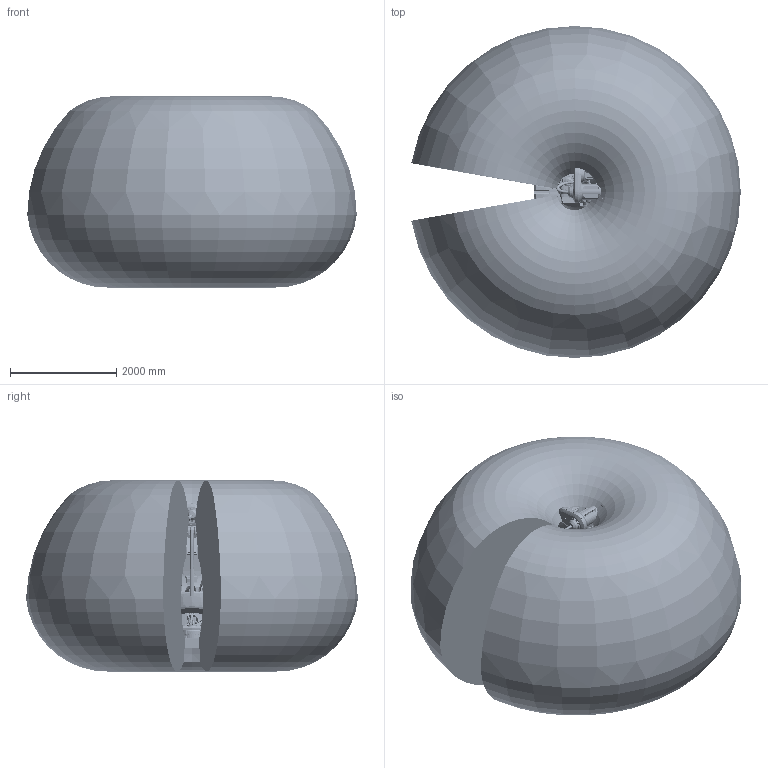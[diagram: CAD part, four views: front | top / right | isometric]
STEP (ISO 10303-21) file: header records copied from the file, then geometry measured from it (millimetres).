
FILE_DESCRIPTION (( 'STEP AP214' ), '1' );
FILE_NAME ('IRB7720-LID-SW_480kg-310_OC_01_ASM_CAD.step', '2026-01-28T12:47:14', ( '' ), ( '' ), 'SwSTEP 2.0', 'SolidWorks 2024', '' );
FILE_SCHEMA (( 'AUTOMOTIVE_DESIGN' ));
Length unit declared in the file: millimetre
Products named in the file (22): IRB77X0_All_OC_00_LINK03b_CABLE; IRB7720-LID-SW_480kg-310_OC_01_ASM_CAD; IRB7720_All_OC_00_BASE_CAD; IRB77X0_All_OC_00_LINK02m_CABLE; IRB7720-LID_All-310_OC_01_LINK04_CABLE; IRB7720_All-310_OC_00_LINK05_CAD; IRB7720_All-310_OC_00_LINK03_CAD; IRB77X0-LID-SW_All_OC_01_LINK03a_CABLE; IRB7720_All-310_OC_00_Working-space; IRB77X0_All_OC_00_ROD_CAD; IRB77X0_All_OC_00_LINK01_CABLE; IRB7720_All-310_OC_00_LINK03m_CABLE; IRB77X0_All_OC_00_CYL_CAD; IRB77X0_All_OC_00_LINK01_CAD; IRB7720_All-310_OC_00_LINK05_CABLE; IRB77X0_All_OC_00_LINK01m_CABLE; IRB7720_All_OC_00_LINKARM_CAD; IRB77X0_All_OC_00_LINK02_CAD; IRB7720_All-310_OC_00_LINK06_CABLE; IRB77X0_All_OC_00_LINK02_CABLE; IRB7720_All-310_OC_00_LINK04_CAD; IRB77X0_All_OC_00_LINKBAR_CAD
Assembly tree (21 placements, depth 2):
  IRB7720-LID-SW_480kg-310_OC_01_ASM_CAD
    IRB7720_All_OC_00_BASE_CAD
    IRB77X0_All_OC_00_LINK01_CAD
    IRB77X0_All_OC_00_LINK02_CAD
    IRB77X0_All_OC_00_CYL_CAD
    IRB77X0_All_OC_00_ROD_CAD
    IRB7720_All_OC_00_LINKARM_CAD
    IRB77X0_All_OC_00_LINKBAR_CAD
    IRB77X0_All_OC_00_LINK01m_CABLE
    IRB77X0_All_OC_00_LINK02m_CABLE
    IRB7720_All-310_OC_00_LINK03_CAD
    IRB7720_All-310_OC_00_LINK04_CAD
    IRB7720_All-310_OC_00_LINK05_CAD
    IRB7720_All-310_OC_00_LINK03m_CABLE
    IRB77X0_All_OC_00_LINK01_CABLE
    IRB77X0_All_OC_00_LINK02_CABLE
    IRB77X0_All_OC_00_LINK03b_CABLE
    IRB77X0-LID-SW_All_OC_01_LINK03a_CABLE
    IRB7720-LID_All-310_OC_01_LINK04_CABLE
    IRB7720_All-310_OC_00_LINK05_CABLE
    IRB7720_All-310_OC_00_LINK06_CABLE
    IRB7720_All-310_OC_00_Working-space
Bounding box: 6198.03 x 6245.48 x 3594.26 mm (x, y, z)
Volume: 75361437347.9 mm3; surface area: 145820035.1 mm2
Topology: 23 solids, 26 shells, 8972 faces, 22740 edges, 14759 vertices
Faces by surface type: plane 4482, cylinder 1956, cone 1211, bspline 974, torus 272, sphere 77
Full cylindrical faces by diameter (mm): 0.882 x1, 4.8 x8, 5 x15, 5.2 x4, 5.45 x1, 5.5 x4, 6 x16, 6.6 x4, 6.8 x32, 7 x4, 7.5 x8, 8 x8, 8.3 x2, 8.5 x17, 9.5 x4, 10 x15, 10.2 x24, 10.22 x2, 10.5 x3, 11 x7, 11.05 x2, 11.8 x2, 12 x30, 13 x1, 14 x26, 16 x4, 16.27 x72, 17 x8, 17.5 x10, 17.7 x4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
Entity records: 590981 total; most frequent: CARTESIAN_POINT 296315, ORIENTED_EDGE 41332, DIRECTION 37063, EDGE_CURVE 20666, VERTEX_POINT 14054, AXIS2_PLACEMENT_3D 13972, EDGE_LOOP 11462, FACE_OUTER_BOUND 9881
